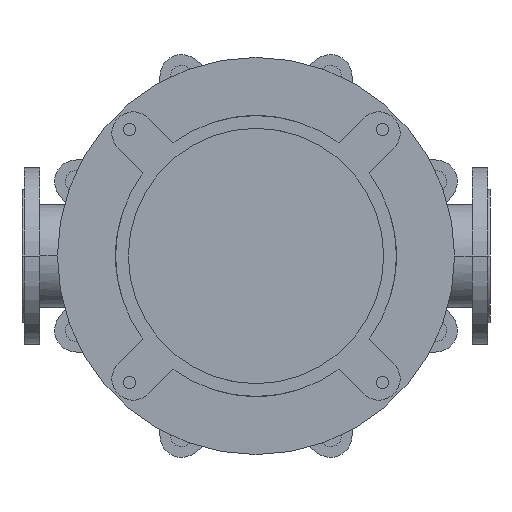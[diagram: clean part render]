
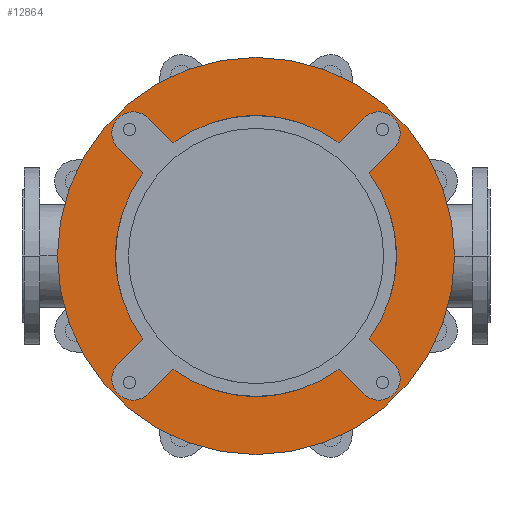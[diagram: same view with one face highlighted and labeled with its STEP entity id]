
A CAD part, front view. The second image highlights one B-rep face of the part: STEP entity #12864.
In plain terms, the highlighted planar face has unit normal (0, -1, 0).
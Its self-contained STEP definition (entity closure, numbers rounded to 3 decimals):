
#2524=CARTESIAN_POINT('',(0.,-25.,0.));
#2525=DIRECTION('',(0.,1.,0.));
#2526=DIRECTION('',(0.592,0.,-0.806));
#2527=AXIS2_PLACEMENT_3D('',#2524,#2525,#2526);
#2542=CARTESIAN_POINT('',(0.,-25.,0.));
#2543=DIRECTION('',(0.,1.,0.));
#2544=DIRECTION('',(0.806,0.,0.592));
#2545=AXIS2_PLACEMENT_3D('',#2542,#2543,#2544);
#2569=CARTESIAN_POINT('',(0.,-25.,0.));
#2570=DIRECTION('',(0.,1.,0.));
#2571=DIRECTION('',(-0.806,0.,-0.592));
#2572=AXIS2_PLACEMENT_3D('',#2569,#2570,#2571);
#2578=CARTESIAN_POINT('',(0.,-25.,0.));
#2579=DIRECTION('',(0.,1.,0.));
#2580=DIRECTION('',(-0.592,0.,0.806));
#2581=AXIS2_PLACEMENT_3D('',#2578,#2579,#2580);
#2756=CARTESIAN_POINT('',(0.,-25.,0.));
#2757=DIRECTION('',(0.,-1.,0.));
#2758=DIRECTION('',(-1.,0.,0.));
#2759=AXIS2_PLACEMENT_3D('',#2756,#2757,#2758);
#2761=CARTESIAN_POINT('',(0.,-25.,0.));
#2762=DIRECTION('',(0.,1.,0.));
#2763=DIRECTION('',(-1.,0.,0.));
#2764=AXIS2_PLACEMENT_3D('',#2761,#2762,#2763);
#2766=CARTESIAN_POINT('',(-173.241,-25.,173.241));
#2767=DIRECTION('',(0.,-1.,0.));
#2768=DIRECTION('',(0.707,0.,0.707));
#2769=AXIS2_PLACEMENT_3D('',#2766,#2767,#2768);
#2771=DIRECTION('',(0.707,0.,-0.707));
#2772=VECTOR('',#2771,49.286);
#2773=CARTESIAN_POINT('',(-194.454,-25.,152.028));
#2774=LINE('',#2773,#2772);
#2775=DIRECTION('',(-0.707,0.,-0.707));
#2776=VECTOR('',#2775,49.286);
#2777=CARTESIAN_POINT('',(-159.604,-25.,-117.178));
#2778=LINE('',#2777,#2776);
#2779=CARTESIAN_POINT('',(-173.241,-25.,-173.241));
#2780=DIRECTION('',(0.,-1.,0.));
#2781=DIRECTION('',(-0.707,0.,0.707));
#2782=AXIS2_PLACEMENT_3D('',#2779,#2780,#2781);
#2784=DIRECTION('',(0.707,0.,0.707));
#2785=VECTOR('',#2784,49.286);
#2786=CARTESIAN_POINT('',(-152.028,-25.,-194.454));
#2787=LINE('',#2786,#2785);
#2788=DIRECTION('',(0.707,0.,-0.707));
#2789=VECTOR('',#2788,49.286);
#2790=CARTESIAN_POINT('',(117.178,-25.,-159.604));
#2791=LINE('',#2790,#2789);
#2792=CARTESIAN_POINT('',(173.241,-25.,-173.241));
#2793=DIRECTION('',(0.,-1.,0.));
#2794=DIRECTION('',(-0.707,0.,-0.707));
#2795=AXIS2_PLACEMENT_3D('',#2792,#2793,#2794);
#2797=DIRECTION('',(-0.707,0.,0.707));
#2798=VECTOR('',#2797,49.286);
#2799=CARTESIAN_POINT('',(194.454,-25.,-152.028));
#2800=LINE('',#2799,#2798);
#2801=DIRECTION('',(0.707,0.,0.707));
#2802=VECTOR('',#2801,49.286);
#2803=CARTESIAN_POINT('',(159.604,-25.,117.178));
#2804=LINE('',#2803,#2802);
#2805=CARTESIAN_POINT('',(173.241,-25.,173.241));
#2806=DIRECTION('',(0.,-1.,0.));
#2807=DIRECTION('',(0.707,0.,-0.707));
#2808=AXIS2_PLACEMENT_3D('',#2805,#2806,#2807);
#2810=DIRECTION('',(-0.707,0.,-0.707));
#2811=VECTOR('',#2810,49.286);
#2812=CARTESIAN_POINT('',(152.028,-25.,194.454));
#2813=LINE('',#2812,#2811);
#2814=DIRECTION('',(-0.707,0.,0.707));
#2815=VECTOR('',#2814,49.286);
#2816=CARTESIAN_POINT('',(-117.178,-25.,159.604));
#2817=LINE('',#2816,#2815);
#8377=CARTESIAN_POINT('',(-280.,-25.,0.));
#8378=CARTESIAN_POINT('',(280.,-25.,0.));
#8379=VERTEX_POINT('',#8377);
#8380=VERTEX_POINT('',#8378);
#8401=CARTESIAN_POINT('',(-194.454,-25.,-152.028));
#8402=CARTESIAN_POINT('',(-152.028,-25.,-194.454));
#8403=VERTEX_POINT('',#8401);
#8404=VERTEX_POINT('',#8402);
#8405=CARTESIAN_POINT('',(-117.178,-25.,-159.604));
#8406=VERTEX_POINT('',#8405);
#8407=CARTESIAN_POINT('',(-159.604,-25.,-117.178));
#8408=VERTEX_POINT('',#8407);
#8417=CARTESIAN_POINT('',(152.028,-25.,-194.454));
#8418=CARTESIAN_POINT('',(194.454,-25.,-152.028));
#8419=VERTEX_POINT('',#8417);
#8420=VERTEX_POINT('',#8418);
#8421=CARTESIAN_POINT('',(159.604,-25.,-117.178));
#8422=VERTEX_POINT('',#8421);
#8423=CARTESIAN_POINT('',(117.178,-25.,-159.604));
#8424=VERTEX_POINT('',#8423);
#8433=CARTESIAN_POINT('',(194.454,-25.,152.028));
#8434=CARTESIAN_POINT('',(152.028,-25.,194.454));
#8435=VERTEX_POINT('',#8433);
#8436=VERTEX_POINT('',#8434);
#8437=CARTESIAN_POINT('',(117.178,-25.,159.604));
#8438=VERTEX_POINT('',#8437);
#8439=CARTESIAN_POINT('',(159.604,-25.,117.178));
#8440=VERTEX_POINT('',#8439);
#8449=CARTESIAN_POINT('',(-152.028,-25.,194.454));
#8450=CARTESIAN_POINT('',(-194.454,-25.,152.028));
#8451=VERTEX_POINT('',#8449);
#8452=VERTEX_POINT('',#8450);
#8453=CARTESIAN_POINT('',(-159.604,-25.,117.178));
#8454=VERTEX_POINT('',#8453);
#8455=CARTESIAN_POINT('',(-117.178,-25.,159.604));
#8456=VERTEX_POINT('',#8455);
#12824=CARTESIAN_POINT('',(0.,-25.,0.));
#12825=DIRECTION('',(0.,-1.,0.));
#12826=DIRECTION('',(-1.,0.,0.));
#12827=AXIS2_PLACEMENT_3D('',#12824,#12825,#12826);
#12828=PLANE('',#12827);
#12830=ORIENTED_EDGE('',*,*,#12829,.F.);
#12832=ORIENTED_EDGE('',*,*,#12831,.T.);
#12833=EDGE_LOOP('',(#12830,#12832));
#12834=FACE_OUTER_BOUND('',#12833,.F.);
#12836=ORIENTED_EDGE('',*,*,#12835,.T.);
#12838=ORIENTED_EDGE('',*,*,#12837,.T.);
#12839=ORIENTED_EDGE('',*,*,#12777,.F.);
#12841=ORIENTED_EDGE('',*,*,#12840,.T.);
#12843=ORIENTED_EDGE('',*,*,#12842,.T.);
#12845=ORIENTED_EDGE('',*,*,#12844,.T.);
#12846=ORIENTED_EDGE('',*,*,#12730,.F.);
#12847=ORIENTED_EDGE('',*,*,#12814,.T.);
#12849=ORIENTED_EDGE('',*,*,#12848,.T.);
#12851=ORIENTED_EDGE('',*,*,#12850,.T.);
#12852=ORIENTED_EDGE('',*,*,#12751,.F.);
#12854=ORIENTED_EDGE('',*,*,#12853,.T.);
#12856=ORIENTED_EDGE('',*,*,#12855,.T.);
#12858=ORIENTED_EDGE('',*,*,#12857,.T.);
#12859=ORIENTED_EDGE('',*,*,#12795,.F.);
#12861=ORIENTED_EDGE('',*,*,#12860,.T.);
#12862=EDGE_LOOP('',(#12836,#12838,#12839,#12841,#12843,#12845,#12846,#12847,
#12849,#12851,#12852,#12854,#12856,#12858,#12859,#12861));
#12863=FACE_BOUND('',#12862,.F.);
#12864=ADVANCED_FACE('',(#12834,#12863),#12828,.T.);
#2528=CIRCLE('',#2527,198.);
#2546=CIRCLE('',#2545,198.);
#2573=CIRCLE('',#2572,198.);
#2582=CIRCLE('',#2581,198.);
#2760=CIRCLE('',#2759,280.);
#2765=CIRCLE('',#2764,280.);
#2770=CIRCLE('',#2769,30.);
#2783=CIRCLE('',#2782,30.);
#2796=CIRCLE('',#2795,30.);
#2809=CIRCLE('',#2808,30.);
#12730=EDGE_CURVE('',#8424,#8406,#2528,.T.);
#12751=EDGE_CURVE('',#8440,#8422,#2546,.T.);
#12777=EDGE_CURVE('',#8408,#8454,#2573,.T.);
#12795=EDGE_CURVE('',#8456,#8438,#2582,.T.);
#12814=EDGE_CURVE('',#8424,#8419,#2791,.T.);
#12829=EDGE_CURVE('',#8379,#8380,#2760,.T.);
#12831=EDGE_CURVE('',#8379,#8380,#2765,.T.);
#12835=EDGE_CURVE('',#8451,#8452,#2770,.T.);
#12837=EDGE_CURVE('',#8452,#8454,#2774,.T.);
#12840=EDGE_CURVE('',#8408,#8403,#2778,.T.);
#12842=EDGE_CURVE('',#8403,#8404,#2783,.T.);
#12844=EDGE_CURVE('',#8404,#8406,#2787,.T.);
#12848=EDGE_CURVE('',#8419,#8420,#2796,.T.);
#12850=EDGE_CURVE('',#8420,#8422,#2800,.T.);
#12853=EDGE_CURVE('',#8440,#8435,#2804,.T.);
#12855=EDGE_CURVE('',#8435,#8436,#2809,.T.);
#12857=EDGE_CURVE('',#8436,#8438,#2813,.T.);
#12860=EDGE_CURVE('',#8456,#8451,#2817,.T.);
